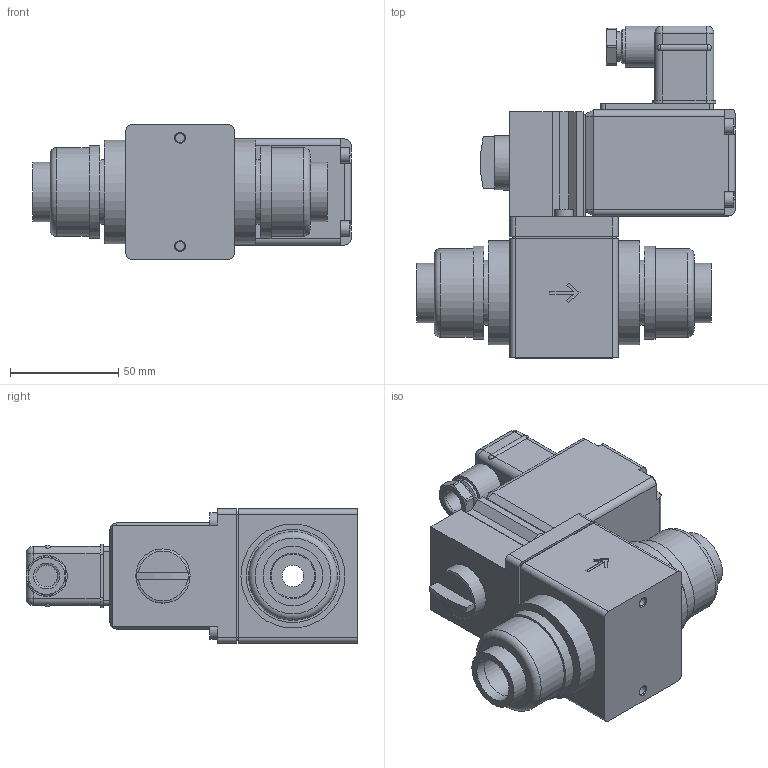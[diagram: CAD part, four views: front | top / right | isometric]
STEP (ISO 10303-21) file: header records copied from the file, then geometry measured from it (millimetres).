
FILE_DESCRIPTION(/* description */ ('STEP AP214'),/* implementation_level */ '2;1');
FILE_NAME(/* name */ '0131-043629-Direct-acting_2_2_or_3_2_way_toggle_valves',/* time_stamp */ '2024-10-01T10:16:33+02:00',/* author */ ('License CC BY-ND 4.0'),/* organization */ ('CADENAS'),/* preprocessor_version */ 'ST-DEVELOPER v19.3',/* originating_system */ 'PARTsolutions',/* authorisation */ ' ');
FILE_SCHEMA (('AUTOMOTIVE_DESIGN {1 0 10303 214 3 1 1}'));
Length unit declared in the file: millimetre
Products named in the file (1): 0131-043629-Direct-acting 2/2 or 3/2 way toggle valves
Bounding box: 147 x 153.2 x 62 mm (x, y, z)
Volume: 571294.9 mm3; surface area: 69077.1 mm2
Topology: 1 solids, 2 shells, 238 faces, 572 edges, 367 vertices
Faces by surface type: plane 131, cylinder 78, cone 15, sphere 9, torus 5
Full cylindrical faces by diameter (mm): 2.459 x1, 4.134 x2, 7 x5, 8.5 x2, 10 x2, 13.7 x1, 16 x1, 19 x1, 20.2 x2, 25 x1, 27.5 x2, 30 x2, 41 x2, 43 x2, 48 x2
Entity records: 6701 total; most frequent: CARTESIAN_POINT 1224, DIRECTION 1158, ORIENTED_EDGE 1044, EDGE_CURVE 522, AXIS2_PLACEMENT_3D 423, VERTEX_POINT 360, LINE 312, VECTOR 312
